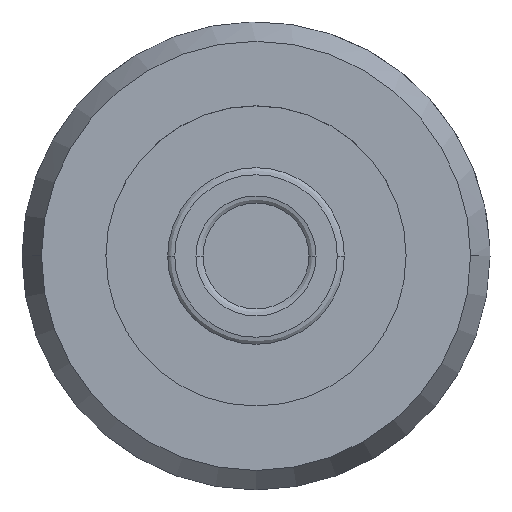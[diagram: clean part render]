
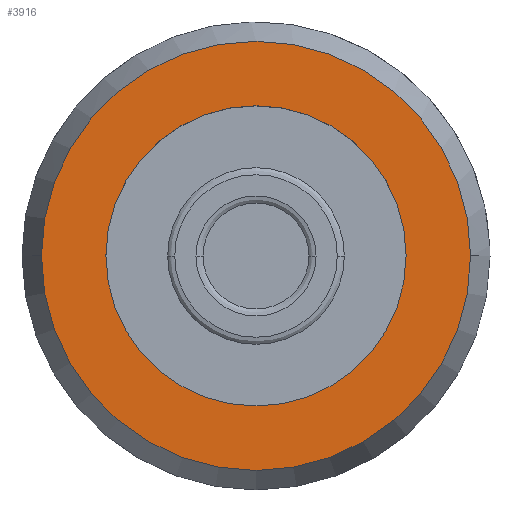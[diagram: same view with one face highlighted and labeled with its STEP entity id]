
A CAD part, top view. The second image highlights one B-rep face of the part: STEP entity #3916.
In plain terms, the highlighted planar face has unit normal (0, 0, 1).
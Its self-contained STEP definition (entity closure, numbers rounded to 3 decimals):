
#3481=CARTESIAN_POINT(' ',(12.15,0.,7.5));
#3482=VERTEX_POINT(' ',#3481);
#3496=CARTESIAN_POINT(' ',(0.,0.,7.5));
#3501=DIRECTION(' ',(0.,0.,-1.));
#3506=DIRECTION(' ',(1.,0.,0.));
#3511=AXIS2_PLACEMENT_3D(' ',#3496,#3501,#3506);
#3516=CIRCLE('',#3511,12.15);
#3521=CARTESIAN_POINT(' ',(-12.15,0.,7.5));
#3522=VERTEX_POINT(' ',#3521);
#3526=EDGE_CURVE(' ',#3482,#3522,#3516,.T.);
#3691=CARTESIAN_POINT(' ',(0.,0.,7.5));
#3696=DIRECTION(' ',(0.,0.,-1.));
#3701=DIRECTION(' ',(-1.,0.,0.));
#3706=AXIS2_PLACEMENT_3D(' ',#3691,#3696,#3701);
#3711=CIRCLE('',#3706,12.15);
#3716=CARTESIAN_POINT(' ',(12.15,0.001,7.5));
#3717=VERTEX_POINT(' ',#3716);
#3721=EDGE_CURVE(' ',#3522,#3717,#3711,.T.);
#3731=CARTESIAN_POINT(' ',(12.15,0.001,7.5));
#3736=DIRECTION(' ',(-0.002,-1.,-0.002));
#3741=VECTOR(' ',#3736,1.);
#3746=LINE('',#3731,#3741);
#3751=EDGE_CURVE(' ',#3717,#3482,#3746,.T.);
#3776=DIRECTION(' ',(-0.,-0.,1.));
#3781=CARTESIAN_POINT(' ',(12.15,-12.514,7.5));
#3786=DIRECTION(' ',(0.,1.,0.));
#3791=AXIS2_PLACEMENT_3D(' ',#3781,#3776,#3786);
#3796=PLANE('',#3791);
#3801=ORIENTED_EDGE(' ',*,*,#3751,.F.);
#3806=ORIENTED_EDGE(' ',*,*,#3721,.F.);
#3811=ORIENTED_EDGE(' ',*,*,#3526,.F.);
#3816=EDGE_LOOP(' ',(#3801,#3806,#3811));
#3821=FACE_OUTER_BOUND(' ',#3816,.T.);
#3826=CARTESIAN_POINT(' ',(0.,0.,7.5));
#3831=DIRECTION(' ',(0.,0.,-1.));
#3836=DIRECTION(' ',(1.,0.,0.));
#3841=AXIS2_PLACEMENT_3D(' ',#3826,#3831,#3836);
#3846=CIRCLE('',#3841,8.5);
#3851=CARTESIAN_POINT(' ',(8.5,0.,7.5));
#3852=VERTEX_POINT(' ',#3851);
#3856=CARTESIAN_POINT(' ',(-8.5,0.,7.5));
#3857=VERTEX_POINT(' ',#3856);
#3861=EDGE_CURVE(' ',#3852,#3857,#3846,.T.);
#3866=ORIENTED_EDGE(' ',*,*,#3861,.T.);
#3871=CARTESIAN_POINT(' ',(0.,0.,7.5));
#3876=DIRECTION(' ',(0.,-0.,-1.));
#3881=DIRECTION(' ',(-1.,0.,0.));
#3886=AXIS2_PLACEMENT_3D(' ',#3871,#3876,#3881);
#3891=CIRCLE('',#3886,8.5);
#3896=EDGE_CURVE(' ',#3857,#3852,#3891,.T.);
#3901=ORIENTED_EDGE(' ',*,*,#3896,.T.);
#3906=EDGE_LOOP(' ',(#3866,#3901));
#3911=FACE_BOUND(' ',#3906,.T.);
#3916=ADVANCED_FACE('',(#3821,#3911),#3796,.T.);
